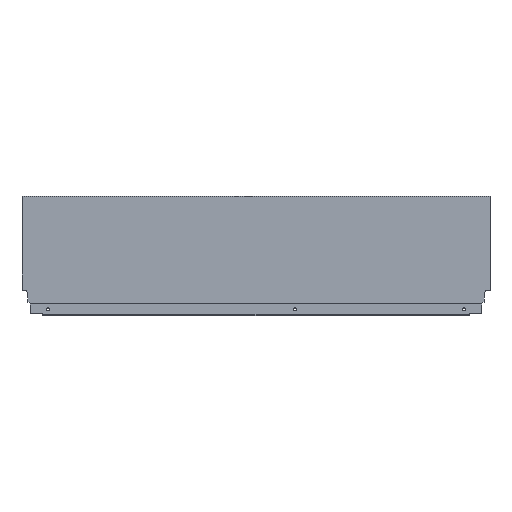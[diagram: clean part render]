
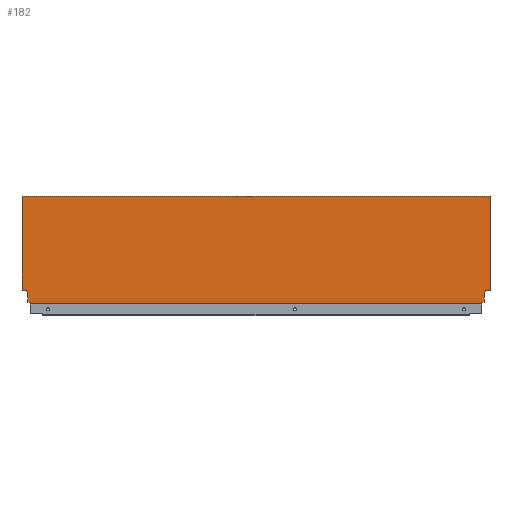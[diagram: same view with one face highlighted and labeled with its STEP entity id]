
A CAD part, top view. The second image highlights one B-rep face of the part: STEP entity #182.
In plain terms, the highlighted planar face has unit normal (0, 0, 1).
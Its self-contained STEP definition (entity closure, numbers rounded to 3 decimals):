
#31 = EDGE_LOOP ( 'NONE', ( #531, #515, #514, #513, #512, #511, #510, #509, #508, #507, #506, #505, #504, #503 ) ) ;
#109 = FACE_OUTER_BOUND ( 'NONE', #31, .T. ) ;
#182 = ADVANCED_FACE ( 'NONE', ( #109 ), #1274, .T. ) ;
#234 = LINE ( 'NONE', #1159, #236 ) ;
#236 = VECTOR ( 'NONE', #1131, 1000. ) ;
#237 = LINE ( 'NONE', #1150, #245 ) ;
#238 = LINE ( 'NONE', #1114, #247 ) ;
#239 = LINE ( 'NONE', #1056, #243 ) ;
#241 = LINE ( 'NONE', #1042, #242 ) ;
#242 = VECTOR ( 'NONE', #1151, 1000. ) ;
#243 = VECTOR ( 'NONE', #1104, 1000. ) ;
#244 = LINE ( 'NONE', #1115, #249 ) ;
#245 = VECTOR ( 'NONE', #1141, 1000. ) ;
#246 = LINE ( 'NONE', #1155, #251 ) ;
#247 = VECTOR ( 'NONE', #1156, 1000. ) ;
#248 = LINE ( 'NONE', #1153, #257 ) ;
#249 = VECTOR ( 'NONE', #1154, 1000. ) ;
#250 = LINE ( 'NONE', #1055, #259 ) ;
#251 = VECTOR ( 'NONE', #1152, 1000. ) ;
#252 = LINE ( 'NONE', #1134, #261 ) ;
#253 = LINE ( 'NONE', #1116, #254 ) ;
#254 = VECTOR ( 'NONE', #1147, 1000. ) ;
#255 = LINE ( 'NONE', #1133, #256 ) ;
#256 = VECTOR ( 'NONE', #1132, 1000. ) ;
#257 = VECTOR ( 'NONE', #1061, 1000. ) ;
#259 = VECTOR ( 'NONE', #1062, 1000. ) ;
#260 = LINE ( 'NONE', #1064, #265 ) ;
#261 = VECTOR ( 'NONE', #1169, 1000. ) ;
#264 = LINE ( 'NONE', #1066, #269 ) ;
#265 = VECTOR ( 'NONE', #1171, 1000. ) ;
#269 = VECTOR ( 'NONE', #1068, 1000. ) ;
#503 = ORIENTED_EDGE ( 'NONE', *, *, #668, .F. ) ;
#504 = ORIENTED_EDGE ( 'NONE', *, *, #663, .F. ) ;
#505 = ORIENTED_EDGE ( 'NONE', *, *, #666, .F. ) ;
#506 = ORIENTED_EDGE ( 'NONE', *, *, #664, .F. ) ;
#507 = ORIENTED_EDGE ( 'NONE', *, *, #662, .F. ) ;
#508 = ORIENTED_EDGE ( 'NONE', *, *, #661, .F. ) ;
#509 = ORIENTED_EDGE ( 'NONE', *, *, #659, .F. ) ;
#510 = ORIENTED_EDGE ( 'NONE', *, *, #654, .T. ) ;
#511 = ORIENTED_EDGE ( 'NONE', *, *, #651, .F. ) ;
#512 = ORIENTED_EDGE ( 'NONE', *, *, #658, .F. ) ;
#513 = ORIENTED_EDGE ( 'NONE', *, *, #657, .F. ) ;
#514 = ORIENTED_EDGE ( 'NONE', *, *, #656, .F. ) ;
#515 = ORIENTED_EDGE ( 'NONE', *, *, #655, .F. ) ;
#531 = ORIENTED_EDGE ( 'NONE', *, *, #660, .T. ) ;
#651 = EDGE_CURVE ( 'NONE', #1232, #1253, #234, .T. ) ;
#654 = EDGE_CURVE ( 'NONE', #1232, #1341, #241, .T. ) ;
#655 = EDGE_CURVE ( 'NONE', #1237, #1291, #239, .T. ) ;
#656 = EDGE_CURVE ( 'NONE', #1247, #1237, #237, .T. ) ;
#657 = EDGE_CURVE ( 'NONE', #1326, #1247, #238, .T. ) ;
#658 = EDGE_CURVE ( 'NONE', #1253, #1326, #244, .T. ) ;
#659 = EDGE_CURVE ( 'NONE', #1248, #1341, #246, .T. ) ;
#660 = EDGE_CURVE ( 'NONE', #1254, #1291, #253, .T. ) ;
#661 = EDGE_CURVE ( 'NONE', #1295, #1248, #255, .T. ) ;
#662 = EDGE_CURVE ( 'NONE', #1344, #1295, #248, .T. ) ;
#663 = EDGE_CURVE ( 'NONE', #1251, #1293, #250, .T. ) ;
#664 = EDGE_CURVE ( 'NONE', #1307, #1344, #252, .T. ) ;
#666 = EDGE_CURVE ( 'NONE', #1293, #1307, #260, .T. ) ;
#668 = EDGE_CURVE ( 'NONE', #1254, #1251, #264, .T. ) ;
#778 = AXIS2_PLACEMENT_3D ( 'NONE', #1181, #1469, #1468 ) ;
#942 = CARTESIAN_POINT ( 'NONE',  ( -709.94, 21.2, 7.5 ) ) ;
#946 = CARTESIAN_POINT ( 'NONE',  ( -703.996, 0., 7.5 ) ) ;
#950 = CARTESIAN_POINT ( 'NONE',  ( -717., 21.2, 7.5 ) ) ;
#959 = CARTESIAN_POINT ( 'NONE',  ( -7.06, 21.2, 7.5 ) ) ;
#961 = CARTESIAN_POINT ( 'NONE',  ( -717., 164.7, 7.5 ) ) ;
#964 = CARTESIAN_POINT ( 'NONE',  ( -703.996, 1.146, 7.5 ) ) ;
#965 = CARTESIAN_POINT ( 'NONE',  ( 0., 164.7, 7.5 ) ) ;
#968 = CARTESIAN_POINT ( 'NONE',  ( -708.1, 10.765, 7.5 ) ) ;
#969 = CARTESIAN_POINT ( 'NONE',  ( -13.004, 1.146, 7.5 ) ) ;
#998 = CARTESIAN_POINT ( 'NONE',  ( -8.9, 10.765, 7.5 ) ) ;
#1005 = CARTESIAN_POINT ( 'NONE',  ( -13.004, 0., 7.5 ) ) ;
#1015 = CARTESIAN_POINT ( 'NONE',  ( -708.1, 2.64, 7.5 ) ) ;
#1032 = CARTESIAN_POINT ( 'NONE',  ( -8.9, 2.64, 7.5 ) ) ;
#1042 = CARTESIAN_POINT ( 'NONE',  ( -717., 0., 7.5 ) ) ;
#1055 = CARTESIAN_POINT ( 'NONE',  ( 0., 0., 7.5 ) ) ;
#1056 = CARTESIAN_POINT ( 'NONE',  ( -722., 21.2, 7.5 ) ) ;
#1061 = DIRECTION ( 'NONE',  ( 0., -1., 0. ) ) ;
#1062 = DIRECTION ( 'NONE',  ( 0., -1., 0. ) ) ;
#1064 = CARTESIAN_POINT ( 'NONE',  ( 0., 21.2, 7.5 ) ) ;
#1066 = CARTESIAN_POINT ( 'NONE',  ( -717., 164.7, 7.5 ) ) ;
#1068 = DIRECTION ( 'NONE',  ( 1., 0., 0. ) ) ;
#1103 = CARTESIAN_POINT ( 'NONE',  ( 0., 21.2, 7.5 ) ) ;
#1104 = DIRECTION ( 'NONE',  ( -1., 0., 0. ) ) ;
#1114 = CARTESIAN_POINT ( 'NONE',  ( -708.1, 10.765, 7.5 ) ) ;
#1115 = CARTESIAN_POINT ( 'NONE',  ( -708.1, 2.64, 7.5 ) ) ;
#1116 = CARTESIAN_POINT ( 'NONE',  ( -717., 0., 7.5 ) ) ;
#1131 = DIRECTION ( 'NONE',  ( 0., 1., 0. ) ) ;
#1132 = DIRECTION ( 'NONE',  ( -0.94, -0.342, 0. ) ) ;
#1133 = CARTESIAN_POINT ( 'NONE',  ( -8.9, 2.64, 7.5 ) ) ;
#1134 = CARTESIAN_POINT ( 'NONE',  ( -7.06, 21.2, 7.5 ) ) ;
#1141 = DIRECTION ( 'NONE',  ( -0.174, 0.985, 0. ) ) ;
#1147 = DIRECTION ( 'NONE',  ( 0., -1., 0. ) ) ;
#1150 = CARTESIAN_POINT ( 'NONE',  ( -709.94, 21.2, 7.5 ) ) ;
#1151 = DIRECTION ( 'NONE',  ( 1., 0., 0. ) ) ;
#1152 = DIRECTION ( 'NONE',  ( 0., -1., 0. ) ) ;
#1153 = CARTESIAN_POINT ( 'NONE',  ( -8.9, 10.765, 7.5 ) ) ;
#1154 = DIRECTION ( 'NONE',  ( -0.94, 0.342, 0. ) ) ;
#1155 = CARTESIAN_POINT ( 'NONE',  ( -13.004, 1.146, 7.5 ) ) ;
#1156 = DIRECTION ( 'NONE',  ( 0., 1., 0. ) ) ;
#1159 = CARTESIAN_POINT ( 'NONE',  ( -703.996, 1.146, 7.5 ) ) ;
#1169 = DIRECTION ( 'NONE',  ( -0.174, -0.985, 0. ) ) ;
#1171 = DIRECTION ( 'NONE',  ( -1., 0., 0. ) ) ;
#1181 = CARTESIAN_POINT ( 'NONE',  ( -717., 0., 7.5 ) ) ;
#1232 = VERTEX_POINT ( 'NONE', #946 ) ;
#1237 = VERTEX_POINT ( 'NONE', #942 ) ;
#1247 = VERTEX_POINT ( 'NONE', #968 ) ;
#1248 = VERTEX_POINT ( 'NONE', #969 ) ;
#1251 = VERTEX_POINT ( 'NONE', #965 ) ;
#1253 = VERTEX_POINT ( 'NONE', #964 ) ;
#1254 = VERTEX_POINT ( 'NONE', #961 ) ;
#1274 = PLANE ( 'NONE',  #778 ) ;
#1291 = VERTEX_POINT ( 'NONE', #950 ) ;
#1293 = VERTEX_POINT ( 'NONE', #1103 ) ;
#1295 = VERTEX_POINT ( 'NONE', #1032 ) ;
#1307 = VERTEX_POINT ( 'NONE', #959 ) ;
#1326 = VERTEX_POINT ( 'NONE', #1015 ) ;
#1341 = VERTEX_POINT ( 'NONE', #1005 ) ;
#1344 = VERTEX_POINT ( 'NONE', #998 ) ;
#1468 = DIRECTION ( 'NONE',  ( 1., 0., 0. ) ) ;
#1469 = DIRECTION ( 'NONE',  ( 0., 0., 1. ) ) ;
